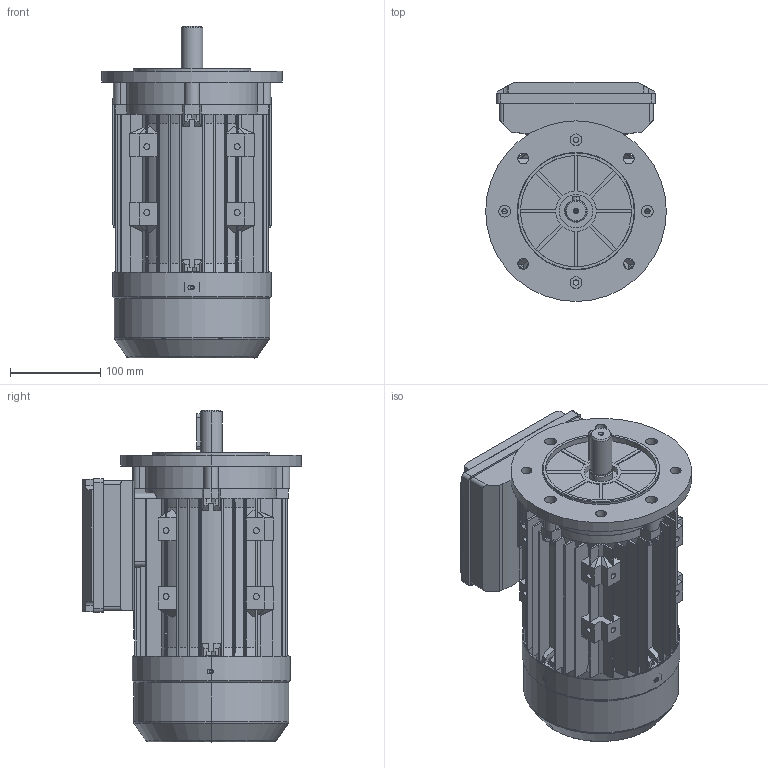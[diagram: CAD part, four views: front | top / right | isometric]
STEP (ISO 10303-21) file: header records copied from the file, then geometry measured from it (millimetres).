
FILE_DESCRIPTION (( 'STEP AP214' ), '1' );
FILE_NAME ('ML-90L_B5.STEP', '2015-02-26T14:45:06', ( '' ), ( '' ), 'SwSTEP 2.0', 'SolidWorks 2012', '' );
FILE_SCHEMA (( 'AUTOMOTIVE_DESIGN' ));
Length unit declared in the file: millimetre
Products named in the file (8): Klemmenkastendeckel_ML90; Klemmenkastenunterteil_ML90; Lüfterhaube_MS90; L黤terfl黦el_MS90; B-Lagerschild_MS90; B5-Flansch_MS90; Gehäuse_MS90L3; ML-90L_B5
Assembly tree (7 placements, depth 2):
  ML-90L_B5
    Gehäuse_MS90L3
    B5-Flansch_MS90
    B-Lagerschild_MS90
    L黤terfl黦el_MS90
    Lüfterhaube_MS90
    Klemmenkastenunterteil_ML90
    Klemmenkastendeckel_ML90
Bounding box: 200 x 242.5 x 367.5 mm (x, y, z)
Volume: 1556957.8 mm3; surface area: 901193.6 mm2
Topology: 7 solids, 7 shells, 1735 faces, 4714 edges, 3037 vertices
Faces by surface type: plane 1041, cylinder 476, bspline 119, cone 99
Entity records: 59736 total; most frequent: CARTESIAN_POINT 15703, ORIENTED_EDGE 9416, DIRECTION 8540, EDGE_CURVE 4708, VECTOR 3124, LINE 3124, VERTEX_POINT 3037, AXIS2_PLACEMENT_3D 2708
